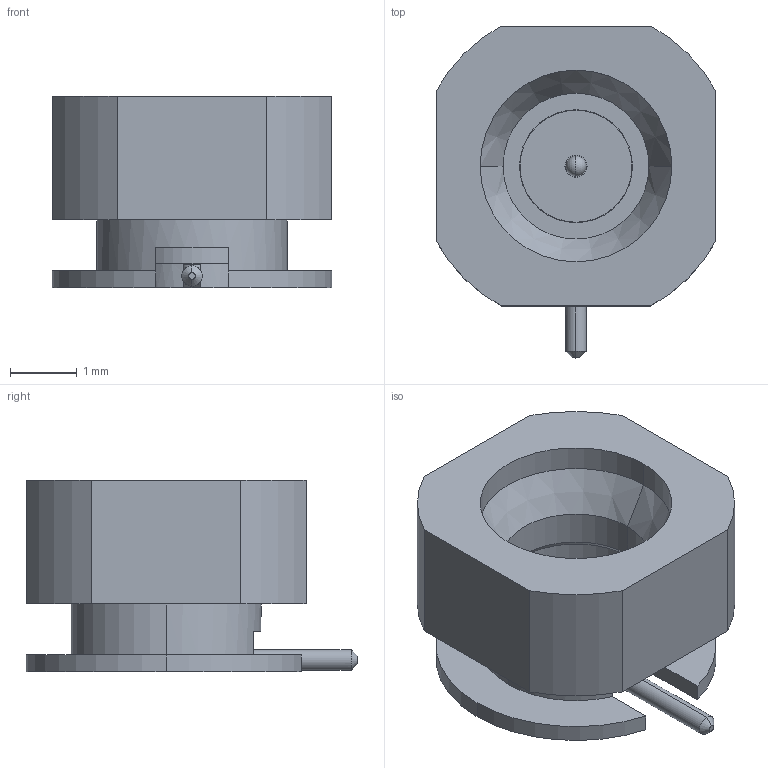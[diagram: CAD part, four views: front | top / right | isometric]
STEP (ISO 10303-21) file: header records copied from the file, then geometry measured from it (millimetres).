
FILE_DESCRIPTION (( 'STEP AP203' ), '1' );
FILE_NAME ('8868000G91P-010.STEP', '2016-10-27T13:15:41', ( 'klewis' ), ( '' ), 'SwSTEP 2.0', 'SolidWorks 2014', '' );
FILE_SCHEMA (( 'CONFIG_CONTROL_DESIGN' ));
Length unit declared in the file: inch
Products named in the file (1): 8868000G91P-010
Bounding box: 4.19 x 4.97 x 2.87 mm (x, y, z)
Volume: 27.5 mm3; surface area: 106.5 mm2
Topology: 1 solids, 1 shells, 85 faces, 231 edges, 149 vertices
Faces by surface type: plane 37, cylinder 35, cone 9, torus 2, sphere 2
Entity records: 2926 total; most frequent: CARTESIAN_POINT 633, DIRECTION 488, ORIENTED_EDGE 458, EDGE_CURVE 229, AXIS2_PLACEMENT_3D 189, VERTEX_POINT 149, VECTOR 110, LINE 110
